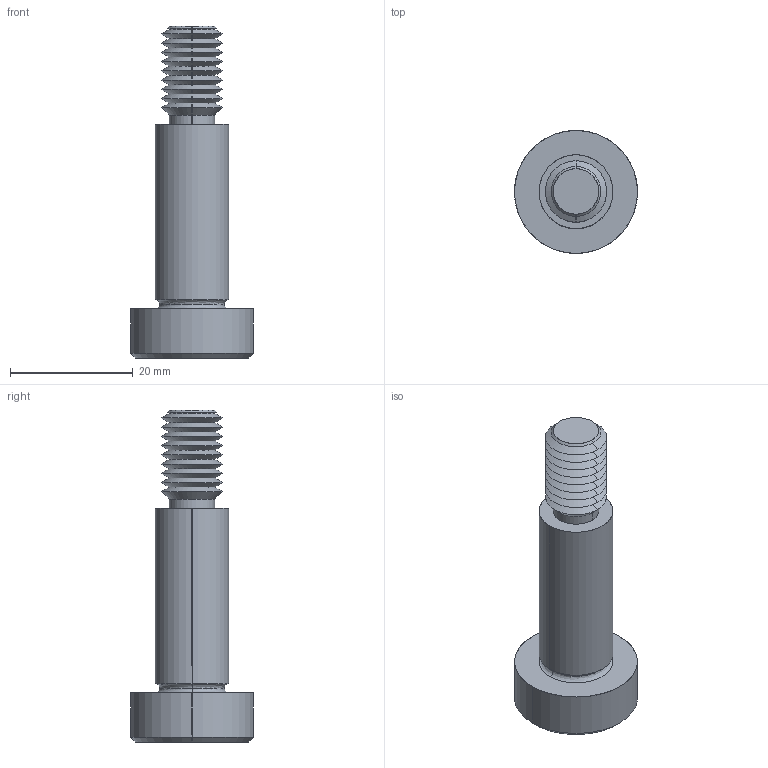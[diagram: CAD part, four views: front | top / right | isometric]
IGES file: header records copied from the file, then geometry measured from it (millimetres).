
Start section: SolidWorks IGES file using analytic representation for surfaces
Global section: file name: C:\Users\IanO\Documents\Temp Folder\GENERAL\SCREW REVISION\P0130_v2\P0130.T5_v2_20220106_IGES\P0130.120-030-T5.igs; native system: SolidWorks 2019; preprocessor: SolidWorks 2019; author: IanO; date: 220106.224730; units: millimetre
Bounding box: 20 x 20 x 54 mm (x, y, z)
Surface area: 3185.4 mm2 (no closed solid volume)
Topology: 0 solids, 0 shells, 76 faces, 564 edges, 562 vertices
Faces by surface type: revolution 56, bspline 20
